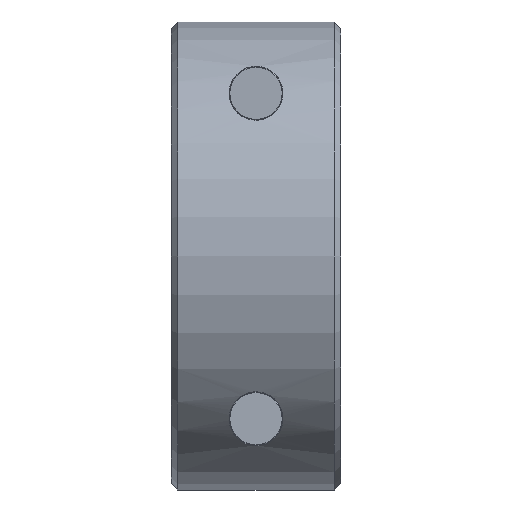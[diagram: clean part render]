
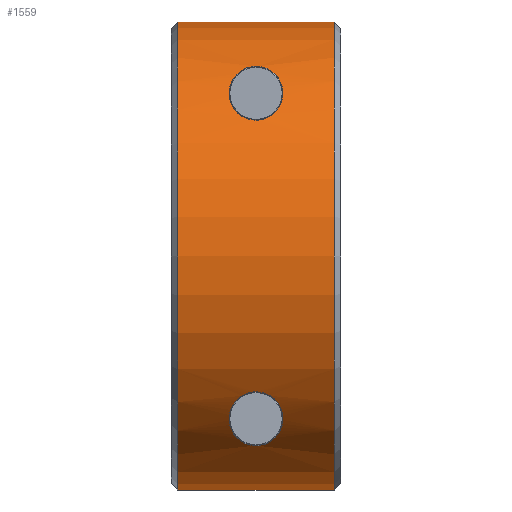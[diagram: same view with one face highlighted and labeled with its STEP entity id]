
A CAD part, front view. The second image highlights one B-rep face of the part: STEP entity #1559.
In plain terms, the highlighted cylindrical face has radius 18 mm (diameter 36 mm), a partial arc.
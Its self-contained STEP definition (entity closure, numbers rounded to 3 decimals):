
#80=LINE('',#2127,#154);
#81=LINE('',#2131,#155);
#154=VECTOR('',#1769,1000.);
#155=VECTOR('',#1772,1000.);
#228=B_SPLINE_CURVE_WITH_KNOTS('',3,(#2087,#2088,#2089,#2090,#2091,#2092,
#2093,#2094,#2095,#2096,#2097,#2098,#2099,#2100,#2101,#2102,#2103),
 .UNSPECIFIED.,.T.,.F.,(1,1,1,1,1,1,1,1,1,1,1,1,1,1,1,1,1,1,1,1,1),(-0.004,
-0.002,-0.001,0.,0.001,0.002,
0.004,0.005,0.006,0.007,
0.008,0.009,0.01,0.011,
0.012,0.014,0.015,0.016,
0.017,0.018,0.02),.UNSPECIFIED.);
#229=B_SPLINE_CURVE_WITH_KNOTS('',3,(#2106,#2107,#2108,#2109,#2110,#2111,
#2112,#2113,#2114,#2115,#2116,#2117,#2118,#2119,#2120,#2121,#2122),
 .UNSPECIFIED.,.T.,.F.,(1,1,1,1,1,1,1,1,1,1,1,1,1,1,1,1,1,1,1,1,1),(-0.004,
-0.002,-0.001,0.,0.001,0.002,
0.004,0.005,0.006,0.007,
0.008,0.009,0.01,0.011,
0.012,0.014,0.015,0.016,
0.017,0.018,0.02),.UNSPECIFIED.);
#250=ORIENTED_EDGE('',*,*,#542,.T.);
#251=ORIENTED_EDGE('',*,*,#543,.T.);
#252=ORIENTED_EDGE('',*,*,#544,.T.);
#253=ORIENTED_EDGE('',*,*,#545,.F.);
#254=ORIENTED_EDGE('',*,*,#546,.T.);
#255=ORIENTED_EDGE('',*,*,#541,.T.);
#541=EDGE_CURVE('',#687,#687,#228,.T.);
#542=EDGE_CURVE('',#688,#688,#229,.T.);
#543=EDGE_CURVE('',#689,#690,#789,.T.);
#544=EDGE_CURVE('',#690,#691,#80,.T.);
#545=EDGE_CURVE('',#692,#691,#790,.T.);
#546=EDGE_CURVE('',#692,#689,#81,.F.);
#687=VERTEX_POINT('',#2104);
#688=VERTEX_POINT('',#2123);
#689=VERTEX_POINT('',#2125);
#690=VERTEX_POINT('',#2126);
#691=VERTEX_POINT('',#2128);
#692=VERTEX_POINT('',#2130);
#789=CIRCLE('',#1638,18.);
#790=CIRCLE('',#1639,18.);
#842=EDGE_LOOP('',(#250));
#843=EDGE_LOOP('',(#251,#252,#253,#254));
#844=EDGE_LOOP('',(#255));
#940=FACE_BOUND('',#842,.T.);
#941=FACE_BOUND('',#843,.T.);
#942=FACE_BOUND('',#844,.T.);
#1039=CYLINDRICAL_SURFACE('',#1637,18.);
#1559=ADVANCED_FACE('',(#940,#941,#942),#1039,.T.);
#1637=AXIS2_PLACEMENT_3D('',#2105,#1765,#1766);
#1638=AXIS2_PLACEMENT_3D('',#2124,#1767,#1768);
#1639=AXIS2_PLACEMENT_3D('',#2129,#1770,#1771);
#1765=DIRECTION('',(1.,0.,0.));
#1766=DIRECTION('',(0.,0.,-1.));
#1767=DIRECTION('',(1.,0.,0.));
#1768=DIRECTION('',(0.,0.,-1.));
#1769=DIRECTION('',(1.,0.,0.));
#1770=DIRECTION('',(1.,0.,0.));
#1771=DIRECTION('',(0.,0.,-1.));
#1772=DIRECTION('',(1.,0.,0.));
#2087=CARTESIAN_POINT('',(-0.984,-14.552,-10.598));
#2088=CARTESIAN_POINT('',(0.,-14.726,-10.35));
#2089=CARTESIAN_POINT('',(0.984,-14.552,-10.598));
#2090=CARTESIAN_POINT('',(1.906,-13.953,-11.397));
#2091=CARTESIAN_POINT('',(2.154,-13.067,-12.412));
#2092=CARTESIAN_POINT('',(1.943,-12.128,-13.311));
#2093=CARTESIAN_POINT('',(1.566,-11.436,-13.91));
#2094=CARTESIAN_POINT('',(0.962,-10.807,-14.4));
#2095=CARTESIAN_POINT('',(-0.005,-10.456,-14.652));
#2096=CARTESIAN_POINT('',(-0.969,-10.812,-14.395));
#2097=CARTESIAN_POINT('',(-1.57,-11.441,-13.906));
#2098=CARTESIAN_POINT('',(-1.944,-12.132,-13.308));
#2099=CARTESIAN_POINT('',(-2.154,-13.068,-12.41));
#2100=CARTESIAN_POINT('',(-1.903,-13.955,-11.394));
#2101=CARTESIAN_POINT('',(-0.984,-14.552,-10.598));
#2102=CARTESIAN_POINT('',(0.,-14.726,-10.35));
#2103=CARTESIAN_POINT('',(0.984,-14.552,-10.598));
#2104=CARTESIAN_POINT('',(0.,-14.668,-10.433));
#2105=CARTESIAN_POINT('',(6.5,0.,0.));
#2106=CARTESIAN_POINT('',(0.984,-14.552,10.598));
#2107=CARTESIAN_POINT('',(0.,-14.726,10.35));
#2108=CARTESIAN_POINT('',(-0.984,-14.552,10.598));
#2109=CARTESIAN_POINT('',(-1.906,-13.953,11.397));
#2110=CARTESIAN_POINT('',(-2.154,-13.067,12.412));
#2111=CARTESIAN_POINT('',(-1.943,-12.128,13.311));
#2112=CARTESIAN_POINT('',(-1.566,-11.436,13.91));
#2113=CARTESIAN_POINT('',(-0.962,-10.807,14.4));
#2114=CARTESIAN_POINT('',(0.005,-10.456,14.652));
#2115=CARTESIAN_POINT('',(0.969,-10.812,14.395));
#2116=CARTESIAN_POINT('',(1.57,-11.441,13.906));
#2117=CARTESIAN_POINT('',(1.944,-12.132,13.308));
#2118=CARTESIAN_POINT('',(2.154,-13.068,12.41));
#2119=CARTESIAN_POINT('',(1.903,-13.955,11.394));
#2120=CARTESIAN_POINT('',(0.984,-14.552,10.598));
#2121=CARTESIAN_POINT('',(0.,-14.726,10.35));
#2122=CARTESIAN_POINT('',(-0.984,-14.552,10.598));
#2123=CARTESIAN_POINT('',(0.,-14.668,10.433));
#2124=CARTESIAN_POINT('',(-6.,0.,0.));
#2125=CARTESIAN_POINT('',(-6.,-1.05,17.969));
#2126=CARTESIAN_POINT('',(-6.,-1.05,-17.969));
#2127=CARTESIAN_POINT('',(6.5,-1.05,-17.969));
#2128=CARTESIAN_POINT('',(6.,-1.05,-17.969));
#2129=CARTESIAN_POINT('',(6.,0.,0.));
#2130=CARTESIAN_POINT('',(6.,-1.05,17.969));
#2131=CARTESIAN_POINT('',(6.5,-1.05,17.969));
